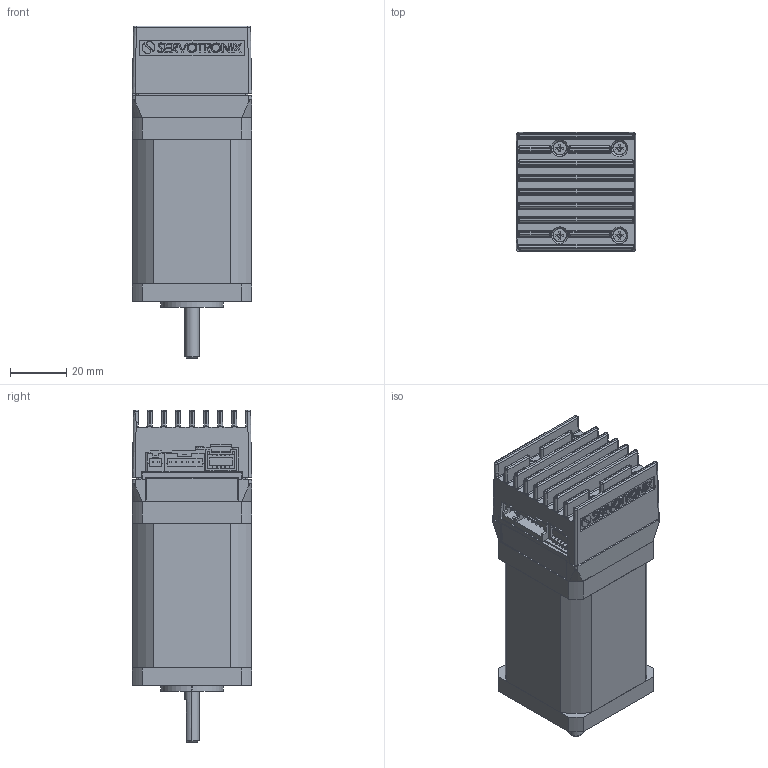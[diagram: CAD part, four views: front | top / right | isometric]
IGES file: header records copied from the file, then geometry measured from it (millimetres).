
Start section: SolidWorks IGES file using analytic representation for surfaces
Global section: file name: C:\Work\Sevotronix\NEMA 17 stepIM 20_3_16\CAD\Injection\models and drawings for website\stepIM_IST-17L12CO10.IGS; native system: SolidWorks 2013; preprocessor: SolidWorks 2013; author: owner; date: 180321.171639; units: millimetre
Bounding box: 42.31 x 42.31 x 117.8 mm (x, y, z)
Surface area: 70030.2 mm2 (no closed solid volume)
Topology: 0 solids, 0 shells, 1945 faces, 18138 edges, 18130 vertices
Faces by surface type: bspline 1460, revolution 485
